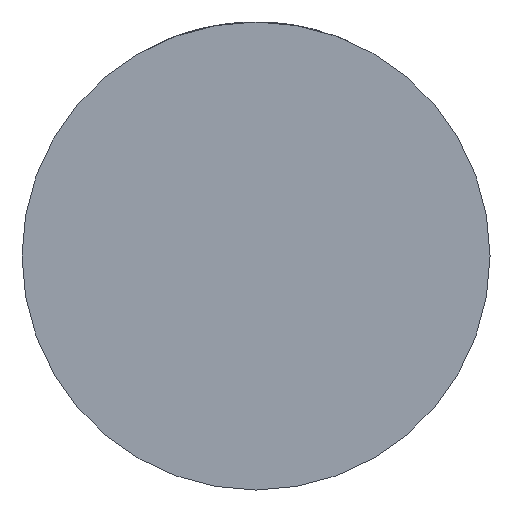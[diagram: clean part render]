
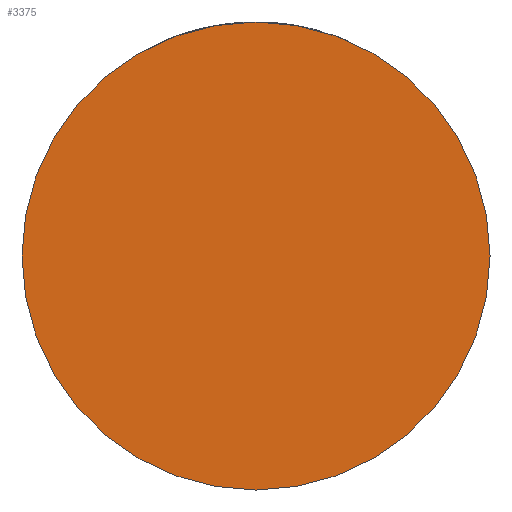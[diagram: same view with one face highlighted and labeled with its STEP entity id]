
A CAD part, front view. The second image highlights one B-rep face of the part: STEP entity #3375.
In plain terms, the highlighted planar face has unit normal (0, -1, 0).
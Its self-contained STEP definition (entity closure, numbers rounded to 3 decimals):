
#289 = CARTESIAN_POINT ( 'NONE',  ( 0., -25., 0. ) ) ;
#305 = ORIENTED_EDGE ( 'NONE', *, *, #659, .T. ) ;
#389 = DIRECTION ( 'NONE',  ( 1., 0., 0. ) ) ;
#659 = EDGE_CURVE ( 'NONE', #1660, #1705, #3880, .T. ) ;
#760 = DIRECTION ( 'NONE',  ( 0., -1., 0. ) ) ;
#852 = AXIS2_PLACEMENT_3D ( 'NONE', #1516, #760, #3541 ) ;
#1133 = FACE_OUTER_BOUND ( 'NONE', #4350, .T. ) ;
#1215 = DIRECTION ( 'NONE',  ( 1., 0., 0. ) ) ;
#1516 = CARTESIAN_POINT ( 'NONE',  ( 0., -25., 0. ) ) ;
#1608 = CARTESIAN_POINT ( 'NONE',  ( -32., -25., 0. ) ) ;
#1660 = VERTEX_POINT ( 'NONE', #1698 ) ;
#1688 = DIRECTION ( 'NONE',  ( 0., -1., 0. ) ) ;
#1698 = CARTESIAN_POINT ( 'NONE',  ( 32., -25., 0. ) ) ;
#1705 = VERTEX_POINT ( 'NONE', #1608 ) ;
#2481 = CARTESIAN_POINT ( 'NONE',  ( 0., -25., 0. ) ) ;
#2776 = PLANE ( 'NONE',  #2788 ) ;
#2788 = AXIS2_PLACEMENT_3D ( 'NONE', #2481, #3852, #389 ) ;
#3375 = ADVANCED_FACE ( 'NONE', ( #1133 ), #2776, .T. ) ;
#3439 = ORIENTED_EDGE ( 'NONE', *, *, #3910, .T. ) ;
#3541 = DIRECTION ( 'NONE',  ( 1., 0., 0. ) ) ;
#3852 = DIRECTION ( 'NONE',  ( 0., -1., 0. ) ) ;
#3880 = CIRCLE ( 'NONE', #4449, 32. ) ;
#3910 = EDGE_CURVE ( 'NONE', #1705, #1660, #4283, .T. ) ;
#4283 = CIRCLE ( 'NONE', #852, 32. ) ;
#4350 = EDGE_LOOP ( 'NONE', ( #3439, #305 ) ) ;
#4449 = AXIS2_PLACEMENT_3D ( 'NONE', #289, #1688, #1215 ) ;
